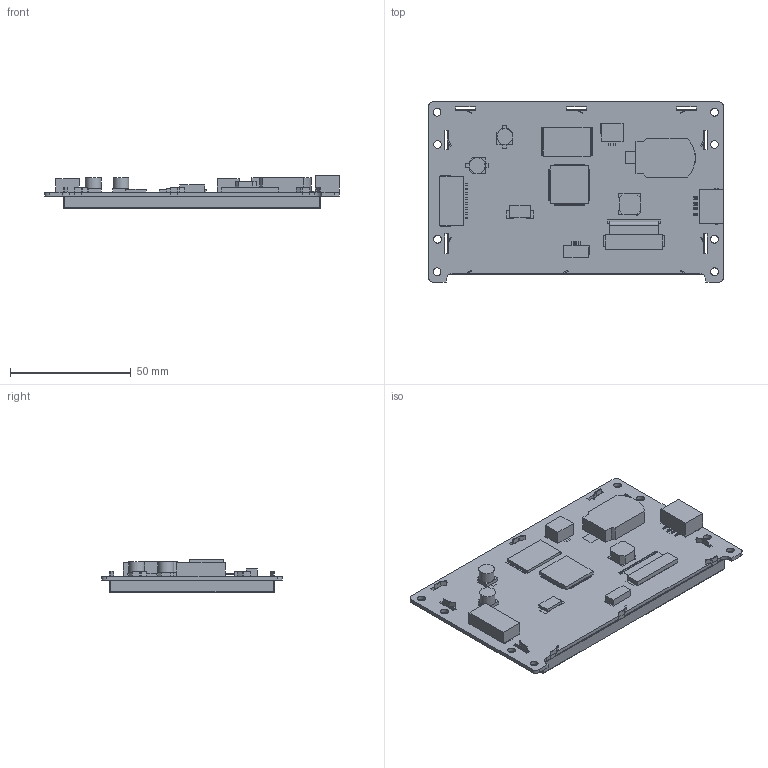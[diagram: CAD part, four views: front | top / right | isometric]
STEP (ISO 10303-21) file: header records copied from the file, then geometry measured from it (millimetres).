
FILE_DESCRIPTION(/* description */ (''),/* implementation_level */ '2;1');
FILE_NAME(/* name */ '3D_SDWe043T67N.stp',/* time_stamp */ '2020-10-09T11:16:52+08:00',/* author */ (''),/* organization */ (''),/* preprocessor_version */ 'ST-DEVELOPER v15',/* originating_system */ 'SIEMENS PLM Software NX 8.5',/* authorisation */ '');
FILE_SCHEMA (('AP203_CONFIGURATION_CONTROLLED_3D_DESIGN_OF_MECHANICAL_PARTS_AND_ASSEMBLIES_MIM_LF { 1 0 10303 403 2 1 2}'));
Length unit declared in the file: millimetre
Products named in the file (1): SDWe043T67
Bounding box: 121.9 x 74.7 x 13.81 mm (x, y, z)
Volume: 55626.4 mm3; surface area: 54510.3 mm2
Topology: 321 solids, 321 shells, 2023 faces, 4143 edges, 2762 vertices
Faces by surface type: plane 1969, cylinder 48, extrusion 6
Full cylindrical faces by diameter (mm): 3.2 x8, 6.522 x1, 6.557 x1
Entity records: 55249 total; most frequent: CARTESIAN_POINT 9261, ORIENTED_EDGE 8254, DIRECTION 8251, EDGE_CURVE 4127, VECTOR 4023, LINE 4017, VERTEX_POINT 2762, AXIS2_PLACEMENT_3D 2114
